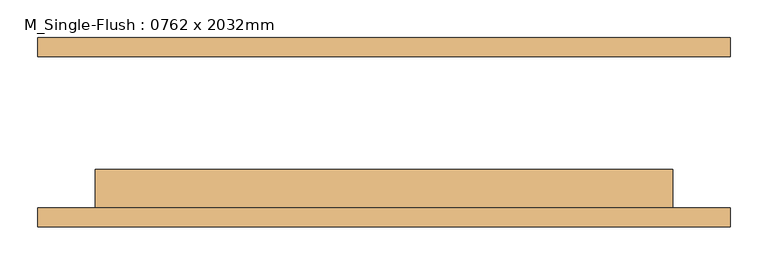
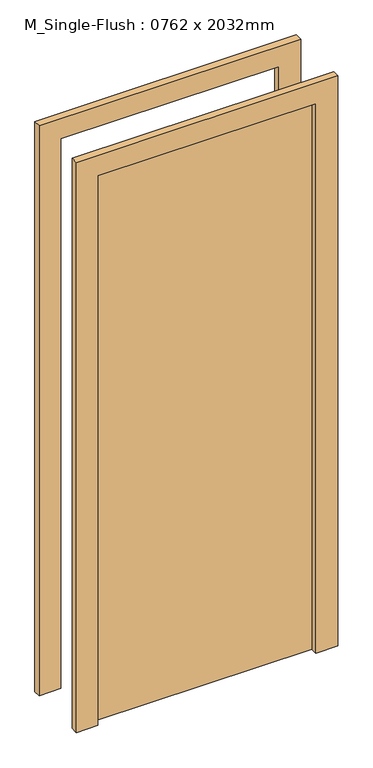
"""IFC4 building model written with IfcOpenShell, lengths in millimetres: door geometry, M_Single-Flush : 0762 x 2032mm."""

import ifcopenshell
import ifcopenshell.guid

model = None  # the IFC model being written
_history = None  # IfcOwnerHistory: only IFC2X3 demands one
_inside = {}  # id of a spatial element -> (the spatial element, [elements in it])
_under = {}  # id of a project, library or spatial element -> (it, [spatial elements below it])
_declared = {}  # id of a project -> (the project, [libraries it declares])
_typed = {}  # id of a type object -> (the type object, [elements of that type])
_made_of = {}  # id of a material, layer set ... -> (it, [elements and type objects made of it])


def new_model(schema):
    """Start an empty IFC model of exactly this schema.

    Asked for "IFC4X3", IfcOpenShell would pick the latest addendum, in which some entities
    have other attributes; the version numbers below select the first issue.
    IFC2X3 requires an IfcOwnerHistory on every rooted entity: one is made here for all.
    """
    global model, _history
    if schema == "IFC4X3":
        model = ifcopenshell.file(schema_version=(4, 3, 0, 0))
    else:
        model = ifcopenshell.file(schema=schema)
    _inside.clear()
    _under.clear()
    _declared.clear()
    _typed.clear()
    _made_of.clear()
    _history = None
    if model.schema == "IFC2X3":
        org = make("IfcOrganization", Name="unknown")
        user = make(
            "IfcPersonAndOrganization",
            ThePerson=make("IfcPerson", FamilyName="unknown"),
            TheOrganization=org,
        )
        app = make(
            "IfcApplication",
            ApplicationDeveloper=org,
            Version="unknown",
            ApplicationFullName="unknown",
            ApplicationIdentifier="unknown",
        )
        _history = make(
            "IfcOwnerHistory",
            OwningUser=user,
            OwningApplication=app,
            ChangeAction="ADDED",
            CreationDate=0,
        )
    return model


def make(cls, **values):
    """One entity of the class cls with the attributes given. An attribute that is None is left unset."""
    return model.create_entity(
        cls, **{name: value for name, value in values.items() if value is not None}
    )


def rooted(cls, **values):
    """An entity with a GlobalId (a new one), such as an element, a storey or a relation."""
    return make(cls, GlobalId=ifcopenshell.guid.new(), OwnerHistory=_history, **values)


def si_unit(unit_type, name, prefix=None):
    """IfcSIUnit, for example si_unit("LENGTHUNIT", "METRE", prefix="MILLI")."""
    return make("IfcSIUnit", UnitType=unit_type, Prefix=prefix, Name=name)


def assignment(units):
    """IfcUnitAssignment: the units of a project."""
    return None if units is None else make("IfcUnitAssignment", Units=units)


def point(xyz):
    """IfcCartesianPoint."""
    return None if xyz is None else make("IfcCartesianPoint", Coordinates=xyz)


def direction(xyz):
    """IfcDirection."""
    return None if xyz is None else make("IfcDirection", DirectionRatios=xyz)


def frame(location, z_axis=None, x_axis=None):
    """IfcAxis2Placement3D, a coordinate frame: its origin and axes. An axis left out is left unset."""
    return make(
        "IfcAxis2Placement3D",
        Location=point(location),
        Axis=direction(z_axis),
        RefDirection=direction(x_axis),
    )


def origin():
    """The frame at (0, 0, 0) with its axes left unset."""
    return frame((0.0, 0.0, 0.0))


def origin_with_axes():
    """The frame at (0, 0, 0) with the z axis (0, 0, 1) and the x axis (1, 0, 0) written out."""
    return frame((0.0, 0.0, 0.0), z_axis=(0.0, 0.0, 1.0), x_axis=(1.0, 0.0, 0.0))


def place(relative_to, where):
    """IfcLocalPlacement: puts the frame where relative to a parent placement (None: the world)."""
    return make(
        "IfcLocalPlacement", PlacementRelTo=relative_to, RelativePlacement=where
    )


def context(
    kind, dimensions, precision=None, world=None, true_north=None, identifier=None
):
    """IfcGeometricRepresentationContext, for example the 3D "Model" context."""
    return make(
        "IfcGeometricRepresentationContext",
        ContextIdentifier=identifier,
        ContextType=kind,
        CoordinateSpaceDimension=dimensions,
        Precision=precision,
        WorldCoordinateSystem=world,
        TrueNorth=true_north,
    )


def project(units=None, contexts=None):
    """IfcProject with its units and contexts."""
    return rooted(
        "IfcProject",
        Name="project",
        RepresentationContexts=contexts,
        UnitsInContext=assignment(units),
    )


def spatial(cls, under=None, at=None, **own):
    """A site, building, storey or space (cls), placed at a placement, below another one or the project."""
    s = rooted(cls, ObjectPlacement=at, **own)
    if under is not None:
        _under.setdefault(under.id(), (under, []))[1].append(s)
    return s


def polyline(points):
    """IfcPolyline through the points."""
    return make("IfcPolyline", Points=[point(p) for p in points])


def outline(outer, holes=None, kind="AREA"):
    """IfcArbitraryClosedProfileDef: a profile drawn as a closed curve; with holes, ...WithVoids."""
    if holes is None:
        return make("IfcArbitraryClosedProfileDef", ProfileType=kind, OuterCurve=outer)
    return make(
        "IfcArbitraryProfileDefWithVoids",
        ProfileType=kind,
        OuterCurve=outer,
        InnerCurves=holes,
    )


def extrude(swept, where, along, depth):
    """IfcExtrudedAreaSolid: the profile swept, set in the frame where, extruded along a direction by depth."""
    return make(
        "IfcExtrudedAreaSolid",
        SweptArea=swept,
        Position=where,
        ExtrudedDirection=direction(along),
        Depth=depth,
    )


def shape(context_of_items, identifier, shape_type, items):
    """IfcShapeRepresentation: the items that make up one representation, for example the "Body"."""
    return make(
        "IfcShapeRepresentation",
        ContextOfItems=context_of_items,
        RepresentationIdentifier=identifier,
        RepresentationType=shape_type,
        Items=items,
    )


def source(mapping_origin, context_of_items, identifier, shape_type, items):
    """IfcRepresentationMap: a shape defined once, which mapped items show again and again."""
    return make(
        "IfcRepresentationMap",
        MappingOrigin=mapping_origin,
        MappedRepresentation=shape(context_of_items, identifier, shape_type, items),
    )


def transform(
    local_origin,
    x_axis=None,
    y_axis=None,
    z_axis=None,
    scale=None,
    scale2=None,
    scale3=None,
    uniform=True,
):
    """IfcCartesianTransformationOperator3D, or its non-uniform kind. x_axis, y_axis, z_axis: its Axis1, 2, 3."""
    if uniform:
        return make(
            "IfcCartesianTransformationOperator3D",
            Axis1=direction(x_axis),
            Axis2=direction(y_axis),
            LocalOrigin=point(local_origin),
            Scale=scale,
            Axis3=direction(z_axis),
        )
    return make(
        "IfcCartesianTransformationOperator3DnonUniform",
        Axis1=direction(x_axis),
        Axis2=direction(y_axis),
        LocalOrigin=point(local_origin),
        Scale=scale,
        Axis3=direction(z_axis),
        Scale2=scale2,
        Scale3=scale3,
    )


def mapped(mapping_source, mapping_target):
    """IfcMappedItem: shows the shape of a source again, moved by a transform."""
    return make(
        "IfcMappedItem", MappingSource=mapping_source, MappingTarget=mapping_target
    )


def made_of(thing, what):
    """Note that an element or type object is made of a material, layer set ...; save() writes the relation."""
    if what is not None:
        _made_of.setdefault(what.id(), (what, []))[1].append(thing)
    return thing


def element(
    cls,
    number,
    at=None,
    inside=None,
    cuts=None,
    type_object=None,
    material=None,
    context=None,
    identifier="Body",
    shape_type=None,
    held_by="IfcProductDefinitionShape",
    body=None,
    shapes=None,
    **own,
):
    """One element of the class cls, such as IfcWall. Its Tag is "e" and its number.

    at: its placement. inside: the storey or other place that contains it. cuts: it is an
    opening in that element (IfcRelVoidsElement). A single representation is given by context,
    identifier, shape_type and body (its items); several are given by shapes. held_by: the class
    of the entity that holds the representations. save() writes the other relations.
    """
    e = rooted(cls, Tag="e%d" % number, ObjectPlacement=at, **own)
    if body is not None:
        shapes = [shape(context, identifier, shape_type, body)]
    if shapes is not None:
        e.Representation = make(held_by, Representations=shapes)
    if inside is not None:
        _inside.setdefault(inside.id(), (inside, []))[1].append(e)
    if cuts is not None:
        rooted(
            "IfcRelVoidsElement", RelatingBuildingElement=cuts, RelatedOpeningElement=e
        )
    if type_object is not None:
        _typed.setdefault(type_object.id(), (type_object, []))[1].append(e)
    return made_of(e, material)


def aggregate(whole, parts):
    """IfcRelAggregates: a whole, such as a stair, and the parts it consists of."""
    return rooted("IfcRelAggregates", RelatingObject=whole, RelatedObjects=parts)


def save(model, path):
    """Write the relations noted so far, then the file.

    IfcRelAggregates (storeys below a building ...), IfcRelContainedInSpatialStructure (elements
    in a storey), IfcRelDefinesByType, IfcRelAssociatesMaterial and IfcRelDeclares: one each for
    every whole, place, type object, material and project.
    """
    for whole, parts in _under.values():
        aggregate(whole, parts)
    for where, things in _inside.values():
        rooted(
            "IfcRelContainedInSpatialStructure",
            RelatedElements=things,
            RelatingStructure=where,
        )
    for kind, things in _typed.values():
        rooted("IfcRelDefinesByType", RelatedObjects=things, RelatingType=kind)
    for what, things in _made_of.values():
        rooted("IfcRelAssociatesMaterial", RelatedObjects=things, RelatingMaterial=what)
    for by, libraries in _declared.values():
        rooted("IfcRelDeclares", RelatingContext=by, RelatedDefinitions=libraries)
    model.write(path)


def m_single_flush_0762_x_2032mm_7341a4fb(model_context):
    return source(origin(), model_context, "Body", "SweptSolid", [
        extrude(outline(polyline([(2108.0, -457.0), (0.0, -457.0), (0.0, -381.0), (2032.0, -381.0), (2032.0, 381.0), (0.0, 381.0), (0.0, 457.0), (2108.0, 457.0), (2108.0, -457.0)])), frame((0.0, -125.0, 0.0), z_axis=(0.0, 1.0, 0.0), x_axis=(0.0, 0.0, 1.0)), (0.0, 0.0, 1.0), 25.0),
        extrude(outline(polyline([(2108.0, 457.0), (2108.0, -457.0), (0.0, -457.0), (0.0, -381.0), (2032.0, -381.0), (2032.0, 381.0), (0.0, 381.0), (0.0, 457.0), (2108.0, 457.0)])), frame((0.0, 100.0, 0.0), z_axis=(0.0, 1.0, 0.0), x_axis=(0.0, 0.0, 1.0)), (0.0, 0.0, 1.0), 25.0),
        extrude(outline(polyline([(381.0, -49.0), (381.0, -100.0), (-381.0, -100.0), (-381.0, -49.0), (381.0, -49.0)])), origin_with_axes(), (0.0, 0.0, 1.0), 2032.0),
    ])


if __name__ == "__main__":
    model = new_model("IFC4")
    model_context = context("Model", 3, world=origin())
    ifc_project = project(units=[si_unit("LENGTHUNIT", "METRE", prefix="MILLI")], contexts=[model_context])
    site = spatial("IfcSite", under=ifc_project)
    building = spatial("IfcBuilding", under=site)
    placement = place(None, origin())
    m_single_flush_0762_x_2032mm_shape = m_single_flush_0762_x_2032mm_7341a4fb(model_context)
    element("IfcDoor", 1, ObjectType="M_Single-Flush : 0762 x 2032mm", at=placement, inside=building, context=model_context, shape_type="MappedRepresentation", body=[
        mapped(m_single_flush_0762_x_2032mm_shape, transform((0.0, 0.0, 0.0), x_axis=(1.0, 0.0, 0.0), y_axis=(0.0, 1.0, 0.0), z_axis=(0.0, 0.0, 1.0))),
    ])
    save(model, "model.ifc")
